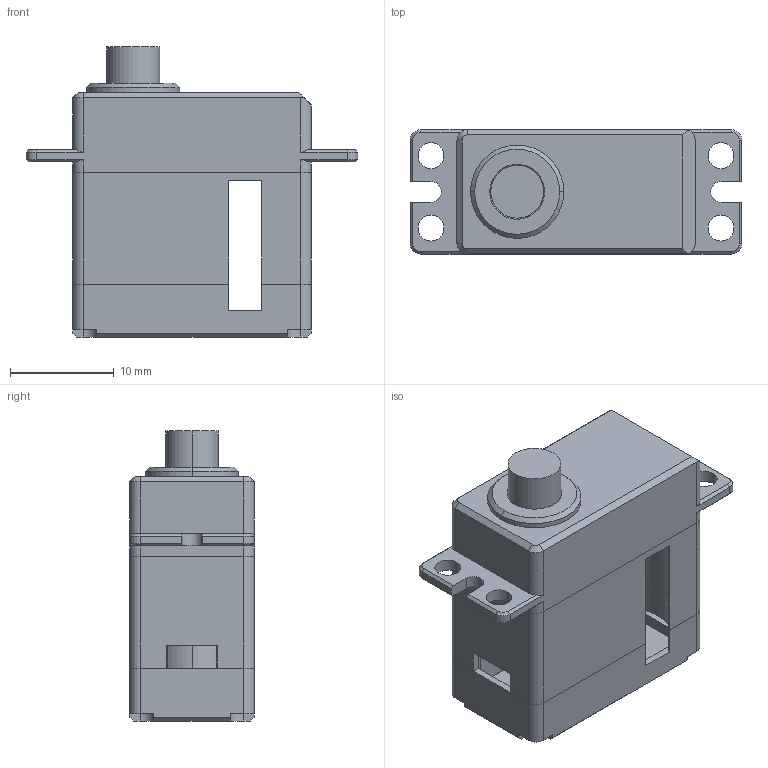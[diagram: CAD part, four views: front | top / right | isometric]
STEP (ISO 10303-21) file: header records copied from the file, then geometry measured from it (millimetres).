
FILE_DESCRIPTION (( 'STEP AP214' ), '1' );
FILE_NAME ('KST-DS213-DM.STEP', '2020-08-21T09:39:13', ( '微软用户' ), ( '微软中国' ), 'SwSTEP 2.0', 'SolidWorks 2016', '' );
FILE_SCHEMA (( 'AUTOMOTIVE_DESIGN' ));
Length unit declared in the file: millimetre
Products named in the file (2): KST-DS213-DM
Bounding box: 32 x 12 x 28 mm (x, y, z)
Volume: 2156.2 mm3; surface area: 5243.1 mm2
Topology: 4 solids, 4 shells, 349 faces, 926 edges, 604 vertices
Faces by surface type: cylinder 164, plane 152, cone 33
Entity records: 11067 total; most frequent: DIRECTION 1979, CARTESIAN_POINT 1952, ORIENTED_EDGE 1852, EDGE_CURVE 926, AXIS2_PLACEMENT_3D 721, VERTEX_POINT 604, VECTOR 537, LINE 537
